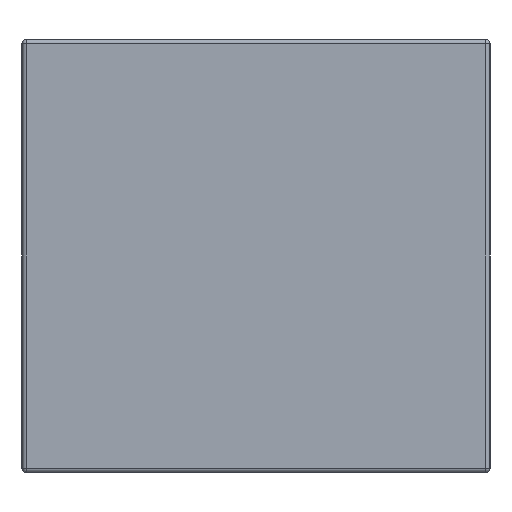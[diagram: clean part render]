
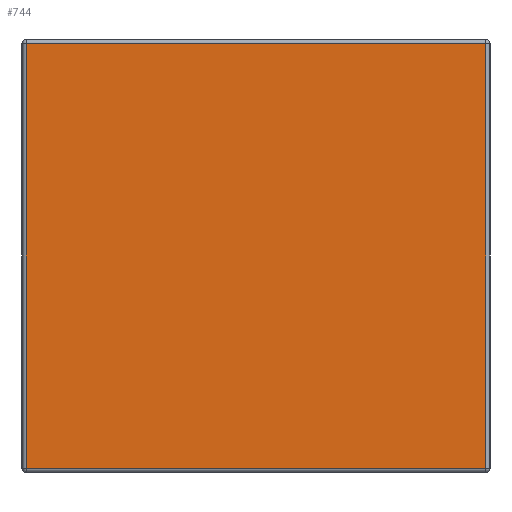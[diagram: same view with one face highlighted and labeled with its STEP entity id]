
A CAD part, left-side view. The second image highlights one B-rep face of the part: STEP entity #744.
In plain terms, the highlighted planar face has unit normal (-1, 0, 0).
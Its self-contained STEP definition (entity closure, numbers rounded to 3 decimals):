
#45 = EDGE_CURVE ( 'NONE', #970, #950, #550, .T. ) ;
#81 = PLANE ( 'NONE',  #1102 ) ;
#95 = VECTOR ( 'NONE', #118, 1000. ) ;
#100 = ORIENTED_EDGE ( 'NONE', *, *, #45, .T. ) ;
#118 = DIRECTION ( 'NONE',  ( 0., -1., 0. ) ) ;
#122 = VECTOR ( 'NONE', #1020, 1000. ) ;
#127 = VERTEX_POINT ( 'NONE', #505 ) ;
#133 = CARTESIAN_POINT ( 'NONE',  ( -1.6, 2.675, 1.25 ) ) ;
#146 = CARTESIAN_POINT ( 'NONE',  ( -1.6, 2.7, 1.25 ) ) ;
#162 = DIRECTION ( 'NONE',  ( 0., 0., -1. ) ) ;
#199 = LINE ( 'NONE', #555, #1125 ) ;
#216 = CARTESIAN_POINT ( 'NONE',  ( -1.6, 2.7, 1.225 ) ) ;
#219 = CARTESIAN_POINT ( 'NONE',  ( -1.6, 2.675, -1.225 ) ) ;
#266 = EDGE_CURVE ( 'NONE', #816, #127, #660, .T. ) ;
#270 = EDGE_CURVE ( 'NONE', #127, #970, #416, .T. ) ;
#306 = EDGE_LOOP ( 'NONE', ( #376, #100, #923, #1103 ) ) ;
#376 = ORIENTED_EDGE ( 'NONE', *, *, #270, .T. ) ;
#391 = DIRECTION ( 'NONE',  ( 0., 0., -1. ) ) ;
#413 = CARTESIAN_POINT ( 'NONE',  ( -1.6, 0.025, 1.225 ) ) ;
#416 = LINE ( 'NONE', #133, #962 ) ;
#505 = CARTESIAN_POINT ( 'NONE',  ( -1.6, 2.675, 1.225 ) ) ;
#518 = EDGE_CURVE ( 'NONE', #950, #816, #199, .T. ) ;
#550 = LINE ( 'NONE', #907, #95 ) ;
#555 = CARTESIAN_POINT ( 'NONE',  ( -1.6, 0.025, 1.25 ) ) ;
#606 = FACE_OUTER_BOUND ( 'NONE', #306, .T. ) ;
#660 = LINE ( 'NONE', #216, #122 ) ;
#674 = DIRECTION ( 'NONE',  ( 1., 0., 0. ) ) ;
#744 = ADVANCED_FACE ( 'NONE', ( #606 ), #81, .F. ) ;
#816 = VERTEX_POINT ( 'NONE', #413 ) ;
#907 = CARTESIAN_POINT ( 'NONE',  ( -1.6, 2.7, -1.225 ) ) ;
#923 = ORIENTED_EDGE ( 'NONE', *, *, #518, .T. ) ;
#950 = VERTEX_POINT ( 'NONE', #990 ) ;
#962 = VECTOR ( 'NONE', #391, 1000. ) ;
#970 = VERTEX_POINT ( 'NONE', #219 ) ;
#990 = CARTESIAN_POINT ( 'NONE',  ( -1.6, 0.025, -1.225 ) ) ;
#1020 = DIRECTION ( 'NONE',  ( 0., 1., 0. ) ) ;
#1097 = DIRECTION ( 'NONE',  ( 0., 0., 1. ) ) ;
#1102 = AXIS2_PLACEMENT_3D ( 'NONE', #146, #674, #162 ) ;
#1103 = ORIENTED_EDGE ( 'NONE', *, *, #266, .T. ) ;
#1125 = VECTOR ( 'NONE', #1097, 1000. ) ;
